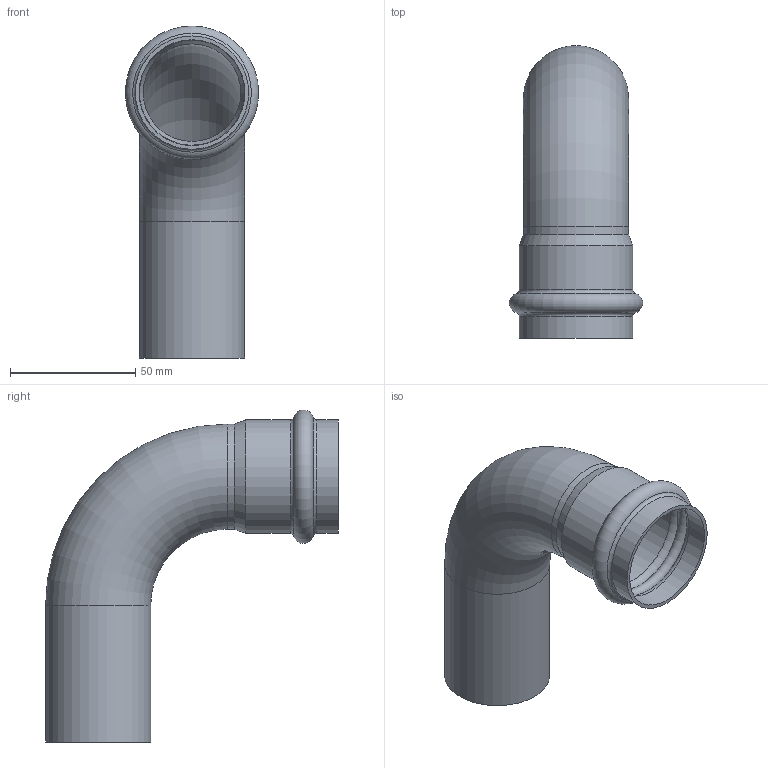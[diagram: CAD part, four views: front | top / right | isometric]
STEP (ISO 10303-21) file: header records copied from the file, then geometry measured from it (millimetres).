
FILE_DESCRIPTION(('STEP AP203'), '1');
FILE_NAME('VTi.950.I.004242', '', ('UNSPECIFIED'), ('UNSPECIFIED'), 'C3D Converter', 'C3D Toolkit', '');
FILE_SCHEMA(('CONFIG_CONTROL_DESIGN'));
Length unit declared in the file: millimetre
Products named in the file (1): ВР.302661.029.000 СБ
Bounding box: 53.28 x 117 x 132.64 mm (x, y, z)
Volume: 38154.3 mm3; surface area: 48807.8 mm2
Topology: 1 solids, 1 shells, 21 faces, 44 edges, 25 vertices
Faces by surface type: torus 9, cylinder 8, plane 2, cone 2
Full cylindrical faces by diameter (mm): 39 x2, 42 x2, 42.3 x2, 45.3 x2
Entity records: 508 total; most frequent: DIRECTION 94, CARTESIAN_POINT 72, ORIENTED_EDGE 50, AXIS2_PLACEMENT_3D 47, EDGE_LOOP 42, FACE_OUTER_BOUND 30, EDGE_CURVE 25, VERTEX_POINT 25
